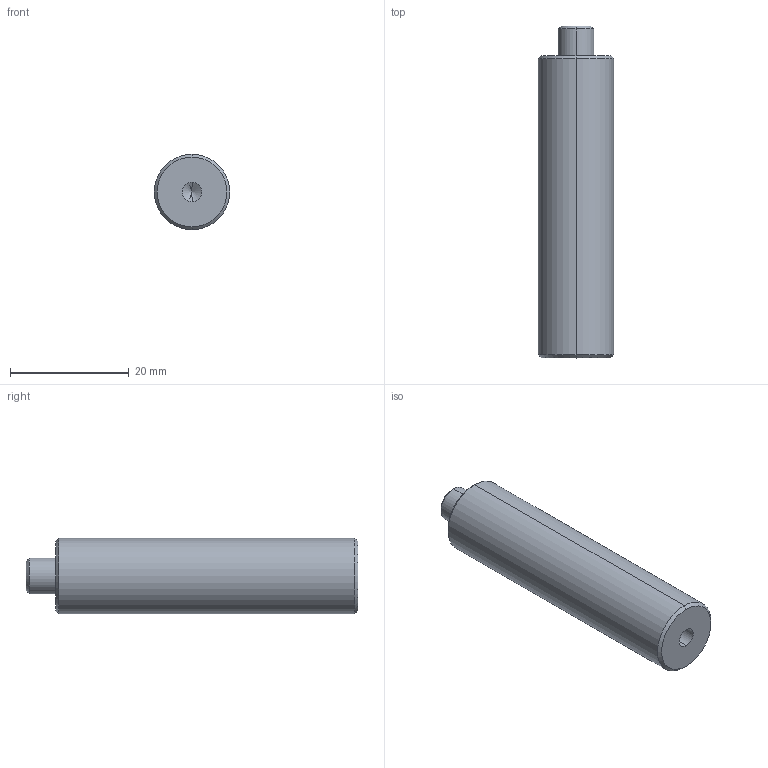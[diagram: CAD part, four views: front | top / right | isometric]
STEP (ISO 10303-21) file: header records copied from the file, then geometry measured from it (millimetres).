
FILE_DESCRIPTION (( 'STEP AP203' ), '1' );
FILE_NAME ('(STEP)M-PDJ-2.STEP', '2020-03-31T08:36:28', ( '' ), ( '' ), 'SwSTEP 2.0', 'SolidWorks 2019', '' );
FILE_SCHEMA (( 'CONFIG_CONTROL_DESIGN' ));
Length unit declared in the file: millimetre
Products named in the file (1): (STEP)M-PDJ-2
Bounding box: 12.7 x 55.8 x 12.7 mm (x, y, z)
Volume: 6475.4 mm3; surface area: 2450.7 mm2
Topology: 1 solids, 1 shells, 17 faces, 34 edges, 19 vertices
Faces by surface type: cone 8, cylinder 6, plane 3
Entity records: 505 total; most frequent: DIRECTION 86, CARTESIAN_POINT 69, ORIENTED_EDGE 64, AXIS2_PLACEMENT_3D 36, EDGE_CURVE 32, VERTEX_POINT 19, EDGE_LOOP 19, CIRCLE 18
